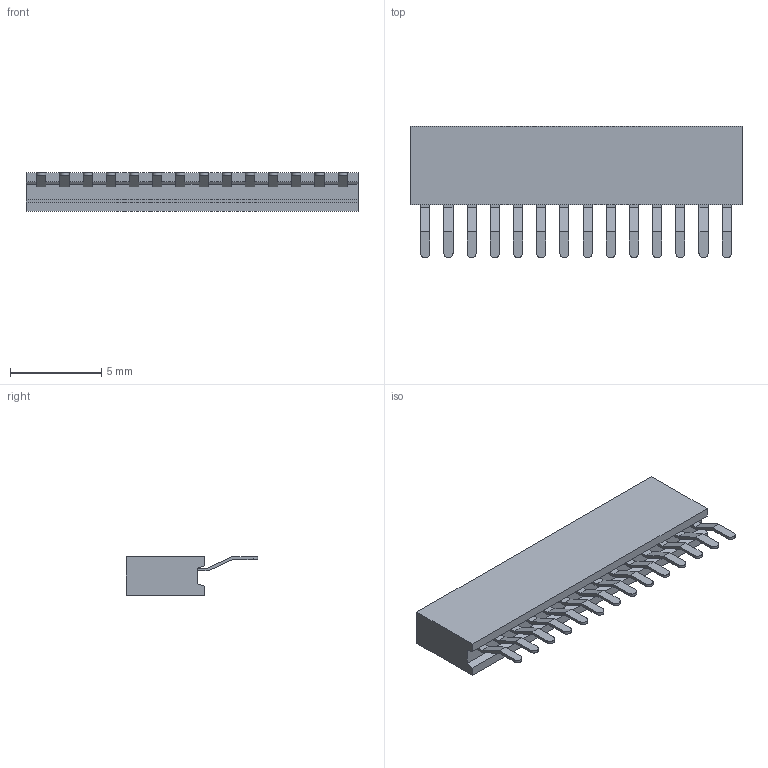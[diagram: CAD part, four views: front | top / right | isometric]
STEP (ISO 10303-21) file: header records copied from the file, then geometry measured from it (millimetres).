
FILE_DESCRIPTION(/* description */ (''),/* implementation_level */ '2;1');
FILE_NAME(/* name */ 'E:\工作文件\排针排母\PM排母\1.27\单排\WS-卧贴\PM127-1-14-WS-4.3(单排 卧贴 排母-HCTL).stp',/* time_stamp */ '2024-01-02T17:48:53+08:00',/* author */ ('admin'),/* organization */ (''),/* preprocessor_version */ 'ST-DEVELOPER v18.1',/* originating_system */ 'Autodesk Inventor 2021',/* authorisation */ '');
FILE_SCHEMA (('AUTOMOTIVE_DESIGN { 1 0 10303 214 3 1 1 }'));
Length unit declared in the file: millimetre
Products named in the file (1): PM127-1-1-WS-4.3(单排 卧贴 排母-
HCTL)
Bounding box: 18.18 x 7.2 x 2.1 mm (x, y, z)
Volume: 152.9 mm3; surface area: 375.7 mm2
Topology: 1 solids, 1 shells, 262 faces, 654 edges, 408 vertices
Faces by surface type: plane 248, cylinder 14
Entity records: 7595 total; most frequent: CARTESIAN_POINT 1325, ORIENTED_EDGE 1308, DIRECTION 1208, EDGE_CURVE 654, LINE 626, VECTOR 626, VERTEX_POINT 408, AXIS2_PLACEMENT_3D 291
